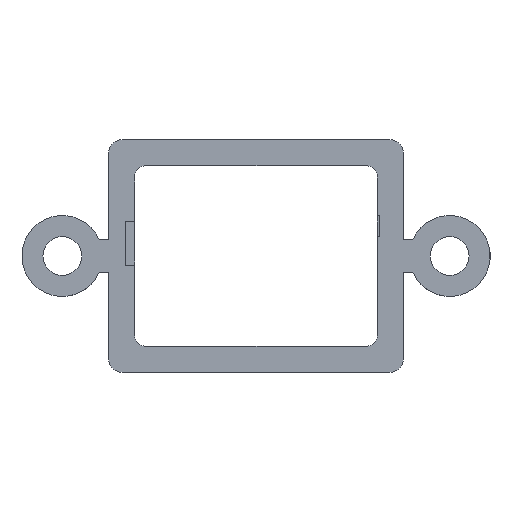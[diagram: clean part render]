
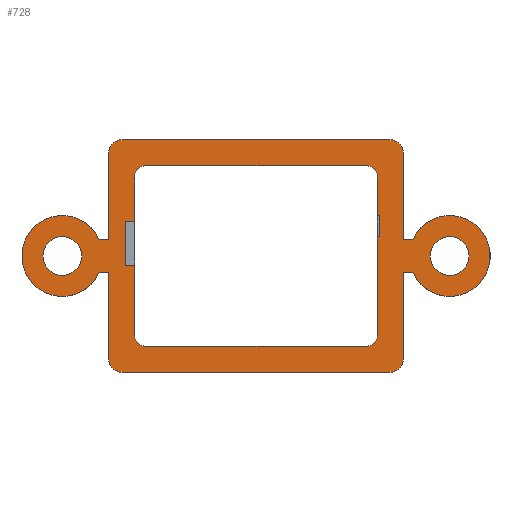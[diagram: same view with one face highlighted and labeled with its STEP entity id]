
A CAD part, top view. The second image highlights one B-rep face of the part: STEP entity #728.
In plain terms, the highlighted planar face has unit normal (0, 0, 1).
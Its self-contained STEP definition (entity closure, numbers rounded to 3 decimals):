
#32=FACE_BOUND('',#116,.T.);
#33=FACE_BOUND('',#117,.T.);
#34=FACE_BOUND('',#118,.T.);
#47=CIRCLE('',#793,0.8);
#48=CIRCLE('',#794,0.8);
#49=CIRCLE('',#795,2.4);
#50=CIRCLE('',#796,0.8);
#51=CIRCLE('',#797,0.8);
#52=CIRCLE('',#798,2.4);
#53=CIRCLE('',#799,0.6);
#54=CIRCLE('',#800,0.6);
#55=CIRCLE('',#801,0.6);
#56=CIRCLE('',#802,0.6);
#57=CIRCLE('',#803,1.15);
#58=CIRCLE('',#804,1.15);
#74=FACE_OUTER_BOUND('',#115,.T.);
#115=EDGE_LOOP('',(#561,#562,#563,#564,#565,#566,#567,#568,#569,#570,#571,
#572,#573,#574,#575,#576));
#116=EDGE_LOOP('',(#577,#578,#579,#580,#581,#582,#583,#584,#585,#586,#587,
#588,#589,#590,#591,#592));
#117=EDGE_LOOP('',(#593));
#118=EDGE_LOOP('',(#594));
#149=LINE('',#1056,#229);
#151=LINE('',#1061,#231);
#153=LINE('',#1064,#233);
#154=LINE('',#1067,#234);
#158=LINE('',#1074,#238);
#165=LINE('',#1089,#245);
#166=LINE('',#1092,#246);
#169=LINE('',#1097,#249);
#170=LINE('',#1100,#250);
#174=LINE('',#1107,#254);
#177=LINE('',#1115,#257);
#190=LINE('',#1163,#270);
#192=LINE('',#1169,#272);
#193=LINE('',#1173,#273);
#194=LINE('',#1175,#274);
#195=LINE('',#1179,#275);
#196=LINE('',#1181,#276);
#197=LINE('',#1185,#277);
#198=LINE('',#1189,#278);
#199=LINE('',#1191,#279);
#200=LINE('',#1196,#280);
#201=LINE('',#1201,#281);
#229=VECTOR('',#843,10.);
#231=VECTOR('',#847,10.);
#233=VECTOR('',#851,10.);
#234=VECTOR('',#854,1.);
#238=VECTOR('',#858,1.);
#245=VECTOR('',#869,10.);
#246=VECTOR('',#872,10.);
#249=VECTOR('',#877,10.);
#250=VECTOR('',#880,1.);
#254=VECTOR('',#884,1.);
#257=VECTOR('',#889,1.);
#270=VECTOR('',#930,1.);
#272=VECTOR('',#936,1.);
#273=VECTOR('',#939,1.);
#274=VECTOR('',#940,1.);
#275=VECTOR('',#943,1.);
#276=VECTOR('',#944,1.);
#277=VECTOR('',#947,1.);
#278=VECTOR('',#950,1.);
#279=VECTOR('',#951,1.);
#280=VECTOR('',#956,1.);
#281=VECTOR('',#961,1.);
#307=VERTEX_POINT('',#1052);
#308=VERTEX_POINT('',#1054);
#309=VERTEX_POINT('',#1058);
#310=VERTEX_POINT('',#1060);
#311=VERTEX_POINT('',#1066);
#314=VERTEX_POINT('',#1072);
#319=VERTEX_POINT('',#1085);
#320=VERTEX_POINT('',#1087);
#321=VERTEX_POINT('',#1091);
#322=VERTEX_POINT('',#1095);
#323=VERTEX_POINT('',#1099);
#326=VERTEX_POINT('',#1105);
#329=VERTEX_POINT('',#1112);
#330=VERTEX_POINT('',#1114);
#351=VERTEX_POINT('',#1162);
#352=VERTEX_POINT('',#1166);
#353=VERTEX_POINT('',#1168);
#354=VERTEX_POINT('',#1170);
#355=VERTEX_POINT('',#1172);
#356=VERTEX_POINT('',#1174);
#357=VERTEX_POINT('',#1176);
#358=VERTEX_POINT('',#1178);
#359=VERTEX_POINT('',#1180);
#360=VERTEX_POINT('',#1182);
#361=VERTEX_POINT('',#1184);
#362=VERTEX_POINT('',#1186);
#363=VERTEX_POINT('',#1188);
#364=VERTEX_POINT('',#1190);
#365=VERTEX_POINT('',#1193);
#366=VERTEX_POINT('',#1195);
#367=VERTEX_POINT('',#1198);
#368=VERTEX_POINT('',#1200);
#369=VERTEX_POINT('',#1203);
#370=VERTEX_POINT('',#1205);
#379=EDGE_CURVE('',#307,#308,#149,.T.);
#381=EDGE_CURVE('',#310,#309,#151,.T.);
#383=EDGE_CURVE('',#308,#310,#153,.T.);
#384=EDGE_CURVE('',#311,#307,#154,.T.);
#388=EDGE_CURVE('',#309,#314,#158,.T.);
#395=EDGE_CURVE('',#319,#320,#165,.T.);
#396=EDGE_CURVE('',#320,#321,#166,.T.);
#399=EDGE_CURVE('',#321,#322,#169,.T.);
#400=EDGE_CURVE('',#323,#319,#170,.T.);
#404=EDGE_CURVE('',#322,#326,#174,.T.);
#407=EDGE_CURVE('',#329,#330,#177,.T.);
#432=EDGE_CURVE('',#351,#330,#190,.T.);
#434=EDGE_CURVE('',#329,#352,#47,.T.);
#435=EDGE_CURVE('',#352,#353,#192,.T.);
#436=EDGE_CURVE('',#353,#354,#48,.T.);
#437=EDGE_CURVE('',#354,#355,#193,.T.);
#438=EDGE_CURVE('',#355,#356,#194,.T.);
#439=EDGE_CURVE('',#356,#357,#49,.T.);
#440=EDGE_CURVE('',#358,#357,#195,.T.);
#441=EDGE_CURVE('',#358,#359,#196,.T.);
#442=EDGE_CURVE('',#359,#360,#50,.T.);
#443=EDGE_CURVE('',#361,#360,#197,.T.);
#444=EDGE_CURVE('',#361,#362,#51,.T.);
#445=EDGE_CURVE('',#363,#362,#198,.T.);
#446=EDGE_CURVE('',#364,#363,#199,.T.);
#447=EDGE_CURVE('',#364,#351,#52,.T.);
#448=EDGE_CURVE('',#314,#365,#53,.T.);
#449=EDGE_CURVE('',#365,#366,#200,.T.);
#450=EDGE_CURVE('',#366,#323,#54,.T.);
#451=EDGE_CURVE('',#326,#367,#55,.T.);
#452=EDGE_CURVE('',#368,#367,#201,.T.);
#453=EDGE_CURVE('',#368,#311,#56,.T.);
#454=EDGE_CURVE('',#369,#369,#57,.T.);
#455=EDGE_CURVE('',#370,#370,#58,.T.);
#561=ORIENTED_EDGE('',*,*,#407,.F.);
#562=ORIENTED_EDGE('',*,*,#434,.T.);
#563=ORIENTED_EDGE('',*,*,#435,.T.);
#564=ORIENTED_EDGE('',*,*,#436,.T.);
#565=ORIENTED_EDGE('',*,*,#437,.T.);
#566=ORIENTED_EDGE('',*,*,#438,.T.);
#567=ORIENTED_EDGE('',*,*,#439,.T.);
#568=ORIENTED_EDGE('',*,*,#440,.F.);
#569=ORIENTED_EDGE('',*,*,#441,.T.);
#570=ORIENTED_EDGE('',*,*,#442,.T.);
#571=ORIENTED_EDGE('',*,*,#443,.F.);
#572=ORIENTED_EDGE('',*,*,#444,.T.);
#573=ORIENTED_EDGE('',*,*,#445,.F.);
#574=ORIENTED_EDGE('',*,*,#446,.F.);
#575=ORIENTED_EDGE('',*,*,#447,.T.);
#576=ORIENTED_EDGE('',*,*,#432,.T.);
#577=ORIENTED_EDGE('',*,*,#381,.T.);
#578=ORIENTED_EDGE('',*,*,#388,.T.);
#579=ORIENTED_EDGE('',*,*,#448,.T.);
#580=ORIENTED_EDGE('',*,*,#449,.T.);
#581=ORIENTED_EDGE('',*,*,#450,.T.);
#582=ORIENTED_EDGE('',*,*,#400,.T.);
#583=ORIENTED_EDGE('',*,*,#395,.T.);
#584=ORIENTED_EDGE('',*,*,#396,.T.);
#585=ORIENTED_EDGE('',*,*,#399,.T.);
#586=ORIENTED_EDGE('',*,*,#404,.T.);
#587=ORIENTED_EDGE('',*,*,#451,.T.);
#588=ORIENTED_EDGE('',*,*,#452,.F.);
#589=ORIENTED_EDGE('',*,*,#453,.T.);
#590=ORIENTED_EDGE('',*,*,#384,.T.);
#591=ORIENTED_EDGE('',*,*,#379,.T.);
#592=ORIENTED_EDGE('',*,*,#383,.T.);
#593=ORIENTED_EDGE('',*,*,#454,.F.);
#594=ORIENTED_EDGE('',*,*,#455,.F.);
#704=PLANE('',#792);
#728=ADVANCED_FACE('',(#74,#32,#33,#34),#704,.T.);
#792=AXIS2_PLACEMENT_3D('',#1165,#932,#933);
#793=AXIS2_PLACEMENT_3D('',#1167,#934,#935);
#794=AXIS2_PLACEMENT_3D('',#1171,#937,#938);
#795=AXIS2_PLACEMENT_3D('',#1177,#941,#942);
#796=AXIS2_PLACEMENT_3D('',#1183,#945,#946);
#797=AXIS2_PLACEMENT_3D('',#1187,#948,#949);
#798=AXIS2_PLACEMENT_3D('',#1192,#952,#953);
#799=AXIS2_PLACEMENT_3D('',#1194,#954,#955);
#800=AXIS2_PLACEMENT_3D('',#1197,#957,#958);
#801=AXIS2_PLACEMENT_3D('',#1199,#959,#960);
#802=AXIS2_PLACEMENT_3D('',#1202,#962,#963);
#803=AXIS2_PLACEMENT_3D('',#1204,#964,#965);
#804=AXIS2_PLACEMENT_3D('',#1206,#966,#967);
#843=DIRECTION('',(1.,0.,0.));
#847=DIRECTION('',(-1.,0.,0.));
#851=DIRECTION('',(0.,-1.,0.));
#854=DIRECTION('',(0.,-1.,0.));
#858=DIRECTION('',(0.,-1.,0.));
#869=DIRECTION('',(-1.,0.,0.));
#872=DIRECTION('',(0.,1.,0.));
#877=DIRECTION('',(1.,0.,0.));
#880=DIRECTION('',(0.,1.,0.));
#884=DIRECTION('',(0.,1.,0.));
#889=DIRECTION('',(0.,1.,0.));
#930=DIRECTION('',(1.,0.,0.));
#932=DIRECTION('center_axis',(0.,0.,1.));
#933=DIRECTION('ref_axis',(1.,0.,0.));
#934=DIRECTION('center_axis',(0.,0.,1.));
#935=DIRECTION('ref_axis',(1.,0.,0.));
#936=DIRECTION('',(1.,0.,0.));
#937=DIRECTION('center_axis',(0.,0.,1.));
#938=DIRECTION('ref_axis',(1.,0.,0.));
#939=DIRECTION('',(0.,1.,0.));
#940=DIRECTION('',(1.,0.,0.));
#941=DIRECTION('center_axis',(0.,0.,1.));
#942=DIRECTION('ref_axis',(-0.909,-0.417,0.));
#943=DIRECTION('',(1.,0.,0.));
#944=DIRECTION('',(0.,1.,0.));
#945=DIRECTION('center_axis',(0.,0.,1.));
#946=DIRECTION('ref_axis',(1.,0.,0.));
#947=DIRECTION('',(1.,0.,0.));
#948=DIRECTION('center_axis',(0.,0.,1.));
#949=DIRECTION('ref_axis',(1.,0.,0.));
#950=DIRECTION('',(0.,1.,0.));
#951=DIRECTION('',(1.,0.,0.));
#952=DIRECTION('center_axis',(0.,0.,1.));
#953=DIRECTION('ref_axis',(1.,0.,0.));
#954=DIRECTION('center_axis',(0.,0.,-1.));
#955=DIRECTION('ref_axis',(1.,0.,0.));
#956=DIRECTION('',(-1.,0.,0.));
#957=DIRECTION('center_axis',(0.,0.,-1.));
#958=DIRECTION('ref_axis',(1.,0.,0.));
#959=DIRECTION('center_axis',(0.,0.,-1.));
#960=DIRECTION('ref_axis',(1.,0.,0.));
#961=DIRECTION('',(-1.,0.,0.));
#962=DIRECTION('center_axis',(0.,0.,-1.));
#963=DIRECTION('ref_axis',(1.,0.,0.));
#964=DIRECTION('center_axis',(0.,0.,1.));
#965=DIRECTION('ref_axis',(1.,0.,0.));
#966=DIRECTION('center_axis',(0.,0.,1.));
#967=DIRECTION('ref_axis',(1.,0.,0.));
#1052=CARTESIAN_POINT('',(7.2,-10.86,-5.1));
#1054=CARTESIAN_POINT('',(7.35,-10.86,-5.1));
#1056=CARTESIAN_POINT('',(3.175,-10.86,-5.1));
#1058=CARTESIAN_POINT('',(7.2,-12.06,-5.1));
#1060=CARTESIAN_POINT('',(7.35,-12.06,-5.1));
#1061=CARTESIAN_POINT('',(3.175,-12.06,-5.1));
#1064=CARTESIAN_POINT('',(7.35,-12.349,-5.1));
#1066=CARTESIAN_POINT('',(7.2,-8.488,-5.1));
#1067=CARTESIAN_POINT('',(7.2,-8.488,-5.1));
#1072=CARTESIAN_POINT('',(7.2,-17.988,-5.1));
#1074=CARTESIAN_POINT('',(7.2,-8.488,-5.1));
#1085=CARTESIAN_POINT('',(-7.2,-13.776,-5.1));
#1087=CARTESIAN_POINT('',(-7.758,-13.776,-5.1));
#1089=CARTESIAN_POINT('',(-3.429,-13.776,-5.1));
#1091=CARTESIAN_POINT('',(-7.758,-11.176,-5.1));
#1092=CARTESIAN_POINT('',(-7.758,-12.857,-5.1));
#1095=CARTESIAN_POINT('',(-7.2,-11.176,-5.1));
#1097=CARTESIAN_POINT('',(-3.429,-11.176,-5.1));
#1099=CARTESIAN_POINT('',(-7.2,-17.988,-5.1));
#1100=CARTESIAN_POINT('',(-7.2,-17.988,-5.1));
#1105=CARTESIAN_POINT('',(-7.2,-8.488,-5.1));
#1107=CARTESIAN_POINT('',(-7.2,-17.988,-5.1));
#1112=CARTESIAN_POINT('',(-8.75,-19.338,-5.1));
#1114=CARTESIAN_POINT('',(-8.75,-14.238,-5.1));
#1115=CARTESIAN_POINT('',(-8.75,-13.238,-5.1));
#1162=CARTESIAN_POINT('',(-9.318,-14.238,-5.1));
#1163=CARTESIAN_POINT('',(-11.5,-14.238,-5.1));
#1165=CARTESIAN_POINT('Origin',(0.,-13.238,-5.1));
#1166=CARTESIAN_POINT('',(-7.95,-20.138,-5.1));
#1167=CARTESIAN_POINT('Origin',(-7.95,-19.338,-5.1));
#1168=CARTESIAN_POINT('',(7.95,-20.138,-5.1));
#1169=CARTESIAN_POINT('',(0.,-20.138,-5.1));
#1170=CARTESIAN_POINT('',(8.75,-19.338,-5.1));
#1171=CARTESIAN_POINT('Origin',(7.95,-19.338,-5.1));
#1172=CARTESIAN_POINT('',(8.75,-14.238,-5.1));
#1173=CARTESIAN_POINT('',(8.75,-13.238,-5.1));
#1174=CARTESIAN_POINT('',(9.318,-14.238,-5.1));
#1175=CARTESIAN_POINT('',(-7.5,-14.238,-5.1));
#1176=CARTESIAN_POINT('',(9.318,-12.238,-5.1));
#1177=CARTESIAN_POINT('Origin',(11.5,-13.238,-5.1));
#1178=CARTESIAN_POINT('',(8.75,-12.238,-5.1));
#1179=CARTESIAN_POINT('',(-7.5,-12.238,-5.1));
#1180=CARTESIAN_POINT('',(8.75,-7.138,-5.1));
#1181=CARTESIAN_POINT('',(8.75,-13.238,-5.1));
#1182=CARTESIAN_POINT('',(7.95,-6.338,-5.1));
#1183=CARTESIAN_POINT('Origin',(7.95,-7.138,-5.1));
#1184=CARTESIAN_POINT('',(-7.95,-6.338,-5.1));
#1185=CARTESIAN_POINT('',(0.,-6.338,-5.1));
#1186=CARTESIAN_POINT('',(-8.75,-7.138,-5.1));
#1187=CARTESIAN_POINT('Origin',(-7.95,-7.138,-5.1));
#1188=CARTESIAN_POINT('',(-8.75,-12.238,-5.1));
#1189=CARTESIAN_POINT('',(-8.75,-13.238,-5.1));
#1190=CARTESIAN_POINT('',(-9.318,-12.238,-5.1));
#1191=CARTESIAN_POINT('',(-11.5,-12.238,-5.1));
#1192=CARTESIAN_POINT('Origin',(-11.5,-13.238,-5.1));
#1193=CARTESIAN_POINT('',(6.6,-18.588,-5.1));
#1194=CARTESIAN_POINT('Origin',(6.6,-17.988,-5.1));
#1195=CARTESIAN_POINT('',(-6.6,-18.588,-5.1));
#1196=CARTESIAN_POINT('',(-3.3,-18.588,-5.1));
#1197=CARTESIAN_POINT('Origin',(-6.6,-17.988,-5.1));
#1198=CARTESIAN_POINT('',(-6.6,-7.888,-5.1));
#1199=CARTESIAN_POINT('Origin',(-6.6,-8.488,-5.1));
#1200=CARTESIAN_POINT('',(6.6,-7.888,-5.1));
#1201=CARTESIAN_POINT('',(-3.3,-7.888,-5.1));
#1202=CARTESIAN_POINT('Origin',(6.6,-8.488,-5.1));
#1203=CARTESIAN_POINT('',(-12.65,-13.238,-5.1));
#1204=CARTESIAN_POINT('Origin',(-11.5,-13.238,-5.1));
#1205=CARTESIAN_POINT('',(10.35,-13.238,-5.1));
#1206=CARTESIAN_POINT('Origin',(11.5,-13.238,-5.1));
